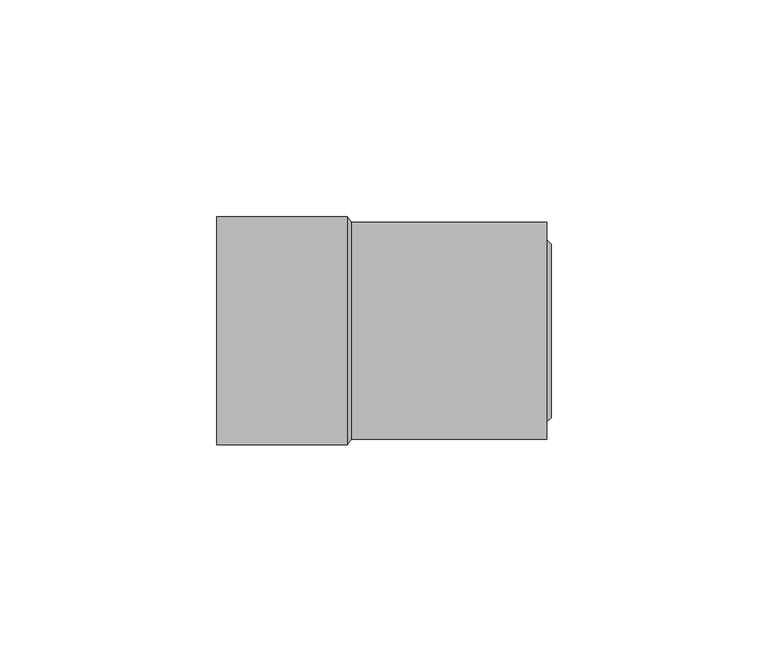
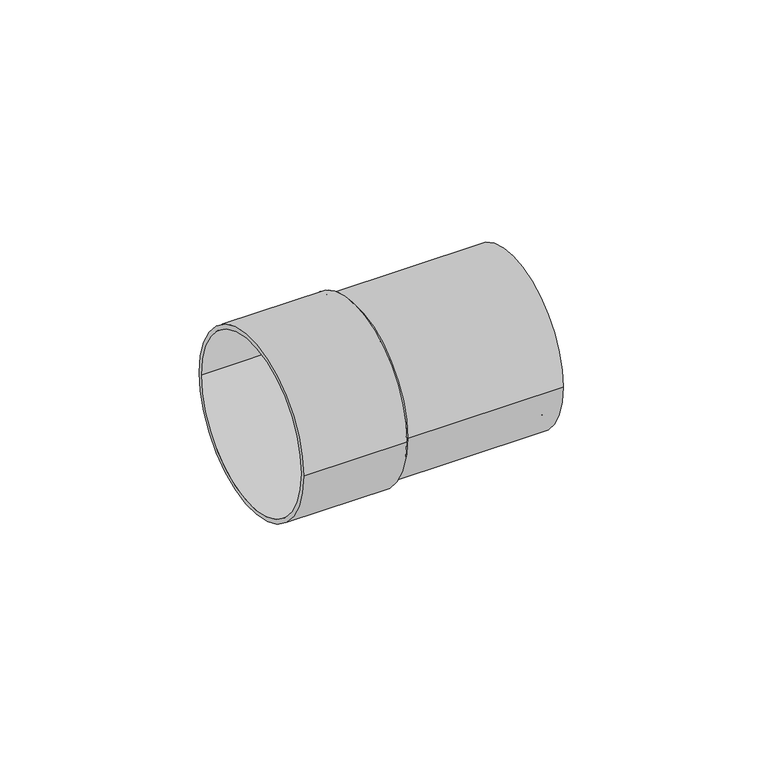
"""IFC4 building model written with IfcOpenShell, lengths in millimetres: pipe fitting geometry, Superdrain HTS-Connection piece to iron pipes : Superdrain HTS-Connection piece to iron pipes."""

from ifc_helpers import new_model, si_unit, point, frame, origin, origin_2d, place, context, project, spatial, polyline, circle_curve, trimmed, segment, composite_curve, outline, extrude, source, transform, mapped, element, save
from ifc_brep_helpers import plane_surface, revolved_surface, advanced_brep


def pipe_fitting_fe7fcd8f(model_context):
    return source(origin(), model_context, "Body", "SolidModel", [
        extrude(outline(composite_curve([segment(trimmed(circle_curve(origin_2d(), 21.0), [point((-21.0, 0.0))], [point((21.0, 0.0))], False, "CARTESIAN"), True, "CONTINUOUS"), segment(trimmed(circle_curve(origin_2d(), 21.0), [point((21.0, 0.0))], [point((-21.0, 0.0))], False, "CARTESIAN"), True, "CONTINUOUS")], self_intersect=False), holes=[composite_curve([segment(trimmed(circle_curve(origin_2d(), 20.0), [point((-20.0, 0.0))], [point((20.0, 0.0))], True, "CARTESIAN"), True, "CONTINUOUS"), segment(trimmed(circle_curve(origin_2d(), 20.0), [point((20.0, 0.0))], [point((-20.0, 0.0))], True, "CARTESIAN"), True, "CONTINUOUS")], self_intersect=False)]), frame((16.0, 0.0, 0.0), z_axis=(1.0, 0.0, 0.0), x_axis=(0.0, 1.0, 0.0)), (0.0, 0.0, 1.0), 30.0),
        advanced_brep(
        [(47.0, -20.0, 0.0), (47.0, 20.0, 0.0), (46.0, -21.0, 0.0), (46.0, 21.0, 0.0)],
        [
            (0, 1, circle_curve(frame((47.0, 0.0, 0.0), z_axis=(1.0, 0.0, 0.0), x_axis=(0.0, -1.0, 0.0)), 20.0)),
            (1, 0, circle_curve(frame((47.0, 0.0, 0.0), z_axis=(1.0, 0.0, 0.0), x_axis=(0.0, 1.0, 0.0)), 20.0)),
            (2, 3, circle_curve(frame((46.0, 0.0, 0.0), z_axis=(-1.0, 0.0, 0.0), x_axis=(0.0, 1.0, 0.0)), 21.0)),
            (3, 2, circle_curve(frame((46.0, 0.0, 0.0), z_axis=(-1.0, 0.0, 0.0), x_axis=(0.0, -1.0, 0.0)), 21.0)),
            (3, 1),
            (0, 2),
        ],
        [
            plane_surface(frame((47.0, 0.0, 0.0), z_axis=(1.0, 0.0, 0.0), x_axis=(0.0, 0.0, -1.0))),
            plane_surface(frame((46.0, 0.0, 0.0), z_axis=(-1.0, 0.0, 0.0), x_axis=(0.0, 0.0, -1.0))),
            revolved_surface(polyline([(47.0, -20.0, 0.0), (46.0, -21.0, 0.0)]), (67.0, 0.0, 0.0), (-1.0, 0.0, 0.0)),
            revolved_surface(polyline([(47.0, 20.0, 0.0), (46.0, 21.0, 0.0)]), (67.0, 0.0, 0.0), (-1.0, 0.0, 0.0)),
        ],
        [
            (0, [[1, 2]]),
            (1, [[3, 4]]),
            (2, [[-4, 5, -1, 6]]),
            (3, [[-3, -6, -2, -5]]),
        ],
    ),
        extrude(outline(composite_curve([segment(trimmed(circle_curve(origin_2d(), 26.25), [point((-26.25, 0.0))], [point((26.25, 0.0))], False, "CARTESIAN"), True, "CONTINUOUS"), segment(trimmed(circle_curve(origin_2d(), 26.25), [point((26.25, 0.0))], [point((-26.25, 0.0))], False, "CARTESIAN"), True, "CONTINUOUS")], self_intersect=False), holes=[composite_curve([segment(trimmed(circle_curve(origin_2d(), 25.0), [point((-25.0, 0.0))], [point((25.0, 0.0))], True, "CARTESIAN"), True, "CONTINUOUS"), segment(trimmed(circle_curve(origin_2d(), 25.0), [point((25.0, 0.0))], [point((-25.0, 0.0))], True, "CARTESIAN"), True, "CONTINUOUS")], self_intersect=False)]), frame((-30.0, 0.0, 0.0), z_axis=(1.0, 0.0, 0.0), x_axis=(0.0, 1.0, 0.0)), (0.0, 0.0, 1.0), 30.0),
        advanced_brep(
        [(1.0, -25.0, 0.0), (1.0, 25.0, 0.0), (0.0, -26.25, 0.0), (0.0, 26.25, 0.0)],
        [
            (0, 1, circle_curve(frame((1.0, 0.0, 0.0), z_axis=(1.0, 0.0, 0.0), x_axis=(0.0, -1.0, 0.0)), 25.0)),
            (1, 0, circle_curve(frame((1.0, 0.0, 0.0), z_axis=(1.0, 0.0, 0.0), x_axis=(0.0, 1.0, 0.0)), 25.0)),
            (2, 3, circle_curve(frame((0.0, 0.0, 0.0), z_axis=(-1.0, 0.0, 0.0), x_axis=(0.0, 1.0, 0.0)), 26.25)),
            (3, 2, circle_curve(frame((0.0, 0.0, 0.0), z_axis=(-1.0, 0.0, 0.0), x_axis=(0.0, -1.0, 0.0)), 26.25)),
            (3, 1),
            (0, 2),
        ],
        [
            plane_surface(frame((1.0, 0.0, 0.0), z_axis=(1.0, 0.0, 0.0), x_axis=(0.0, 0.0, -1.0))),
            plane_surface(frame((0.0, 0.0, 0.0), z_axis=(-1.0, 0.0, 0.0), x_axis=(0.0, 0.0, -1.0))),
            revolved_surface(polyline([(1.0, -25.0, 0.0), (0.0, -26.25, 0.0)]), (21.0, 0.0, 0.0), (-1.0, 0.0, 0.0)),
            revolved_surface(polyline([(1.0, 25.0, 0.0), (0.0, 26.25, 0.0)]), (21.0, 0.0, 0.0), (-1.0, 0.0, 0.0)),
        ],
        [
            (0, [[1, 2]]),
            (1, [[3, 4]]),
            (2, [[-4, 5, -1, 6]]),
            (3, [[-3, -6, -2, -5]]),
        ],
    ),
        extrude(outline(composite_curve([segment(trimmed(circle_curve(origin_2d(), 25.0), [point((-25.0, 0.0))], [point((25.0, 0.0))], False, "CARTESIAN"), True, "CONTINUOUS"), segment(trimmed(circle_curve(origin_2d(), 25.0), [point((25.0, 0.0))], [point((-25.0, 0.0))], False, "CARTESIAN"), True, "CONTINUOUS")], self_intersect=False)), frame((0.0, 0.0, 0.0), z_axis=(1.0, 0.0, 0.0), x_axis=(0.0, 1.0, 0.0)), (0.0, 0.0, 1.0), 46.0),
    ])


if __name__ == "__main__":
    model = new_model("IFC4")
    model_context = context("Model", 3, world=origin())
    ifc_project = project(units=[si_unit("LENGTHUNIT", "METRE", prefix="MILLI")], contexts=[model_context])
    site = spatial("IfcSite", under=ifc_project)
    building = spatial("IfcBuilding", under=site)
    placement = place(None, origin())
    pipe_fitting_shape = pipe_fitting_fe7fcd8f(model_context)
    element("IfcPipeFitting", 1, ObjectType="Superdrain HTS-Connection piece to iron pipes : Superdrain HTS-Connection piece to iron pipes", at=placement, inside=building, context=model_context, shape_type="MappedRepresentation", body=[
        mapped(pipe_fitting_shape, transform((0.0, 0.0, 0.0), x_axis=(1.0, 0.0, 0.0), y_axis=(0.0, 1.0, 0.0), z_axis=(0.0, 0.0, 1.0))),
    ])
    save(model, "model.ifc")
